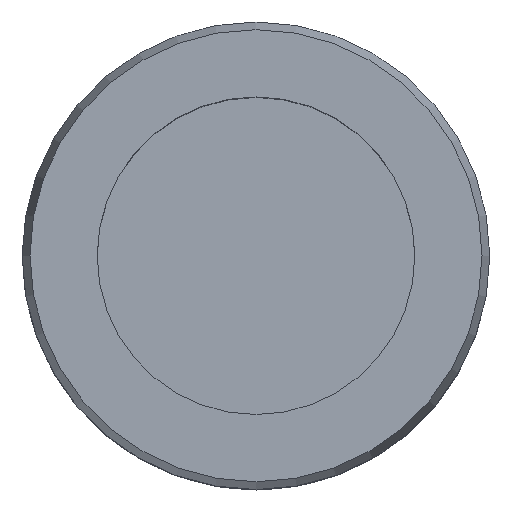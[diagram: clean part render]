
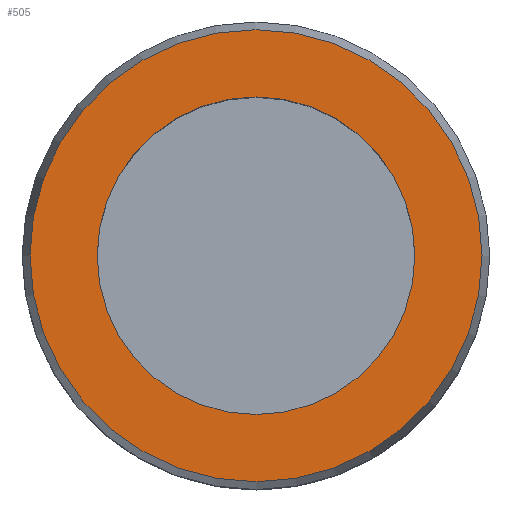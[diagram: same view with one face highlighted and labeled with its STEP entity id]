
A CAD part, top view. The second image highlights one B-rep face of the part: STEP entity #505.
In plain terms, the highlighted planar face has unit normal (0, 0, 1).
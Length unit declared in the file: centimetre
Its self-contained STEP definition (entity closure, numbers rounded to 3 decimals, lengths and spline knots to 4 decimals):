
#131=PLANE('',#567);
#188=VERTEX_POINT('',#1195);
#189=VERTEX_POINT('',#1198);
#224=CIRCLE('',#566,2.5849);
#225=CIRCLE('',#568,1.8161);
#278=EDGE_CURVE('',#188,#188,#224,.T.);
#279=EDGE_CURVE('',#189,#189,#225,.T.);
#384=ORIENTED_EDGE('',*,*,#279,.F.);
#385=ORIENTED_EDGE('',*,*,#278,.T.);
#428=EDGE_LOOP('',(#384));
#429=EDGE_LOOP('',(#385));
#472=FACE_BOUND('',#428,.T.);
#473=FACE_BOUND('',#429,.T.);
#505=ADVANCED_FACE('',(#472,#473),#131,.T.);
#566=AXIS2_PLACEMENT_3D('',#1194,#684,#685);
#567=AXIS2_PLACEMENT_3D('',#1196,#686,$);
#568=AXIS2_PLACEMENT_3D('',#1197,#687,#688);
#684=DIRECTION('',(0.,0.,1.));
#685=DIRECTION('',(0.,2.585,0.));
#686=DIRECTION('',(0.,0.,1.));
#687=DIRECTION('',(0.,0.,1.));
#688=DIRECTION('',(0.,1.816,0.));
#1194=CARTESIAN_POINT('',(0.,0.,0.));
#1195=CARTESIAN_POINT('',(0.,2.5849,0.));
#1196=CARTESIAN_POINT('',(0.,2.2005,0.));
#1197=CARTESIAN_POINT('',(0.,0.,0.));
#1198=CARTESIAN_POINT('',(0.,1.8161,0.));
